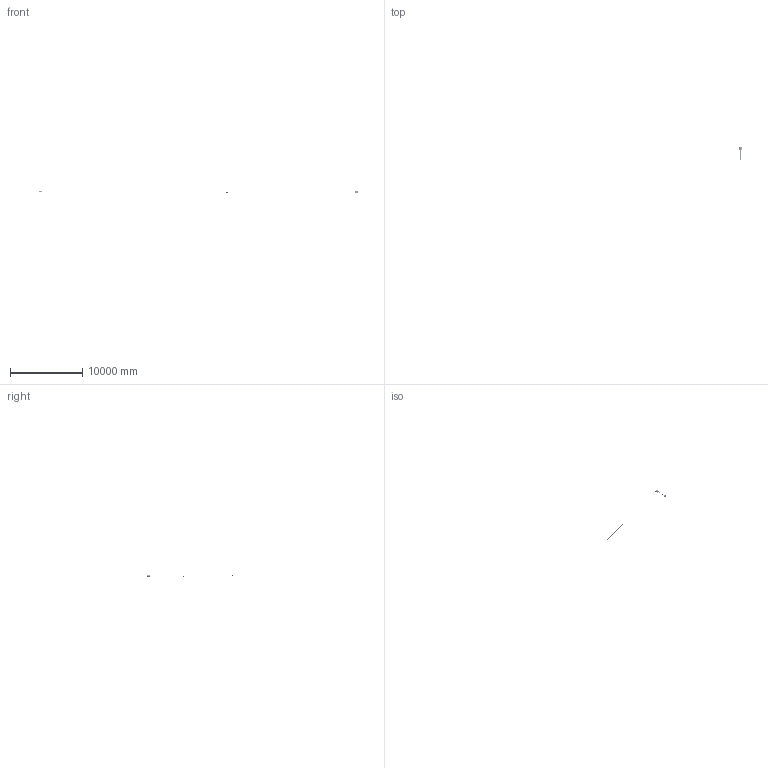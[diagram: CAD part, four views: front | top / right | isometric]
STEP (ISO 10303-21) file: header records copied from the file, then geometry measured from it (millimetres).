
FILE_DESCRIPTION( ( 'STEP AP203' ), '1' );
FILE_NAME( '//srvbf/BF Disegni/EVITA/EVITA-P Piantana 3D.stp', '2020-10-16T15:41:01', ( ' ' ), ( ' ' ), 'XStep 1.0', ' ', ' ' );
FILE_SCHEMA( ( 'CONFIG_CONTROL_DESIGN) ( )' ) );
Length unit declared in the file: metre
Products named in the file (5): Assem1; 1; 2; 3; 4
Bounding box: 46076.04 x 12360.68 x 243.03 mm (x, y, z)
Volume: 6067733.7 mm3; surface area: 3580703 mm2
Topology: 8 solids, 8 shells, 9610 faces, 19396 edges, 9830 vertices
Faces by surface type: cone 6132, cylinder 3208, plane 172, torus 78, bspline 12, sphere 8
Full cylindrical faces by diameter (mm): 2.9 x12, 4 x28, 4.52 x2, 7 x4, 9 x3050, 10 x4, 11 x2, 13 x2, 40 x2, 41 x2, 42 x2, 45.517 x2, 50 x2, 60 x2
Entity records: 98704 total; most frequent: DIRECTION 19434, CARTESIAN_POINT 15610, ORIENTED_EDGE 10072, AXIS2_PLACEMENT_3D 9614, EDGE_LOOP 9482, FACE_OUTER_BOUND 6384, EDGE_CURVE 5036, VERTEX_POINT 4894
